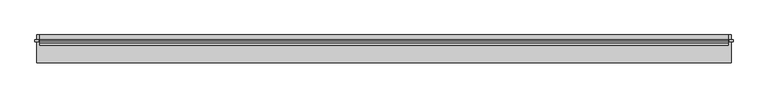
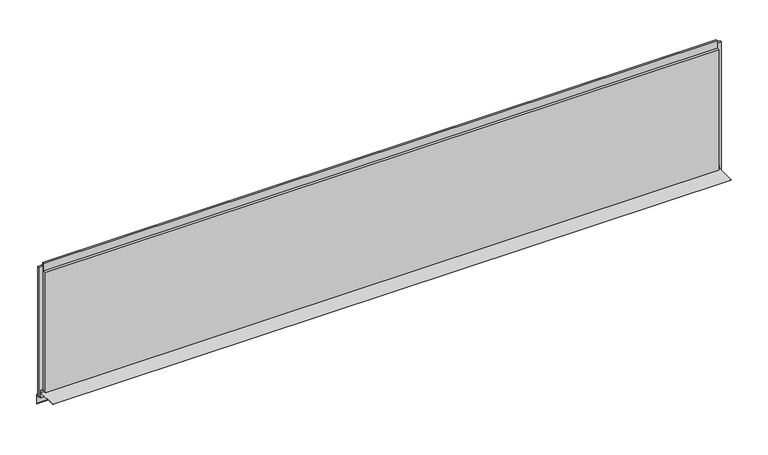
"""IFC4 building model written with IfcOpenShell, lengths in millimetres: plate geometry, Trimo_Qbiss Screen_Normal Panel-HORIZONTAL : HR - B."""

from ifc_helpers import new_model, si_unit, frame, origin, place, context, project, spatial, polyline, outline, extrude, source, transform, mapped, element, save


def plate_c7e8787b(model_context):
    return source(origin(), model_context, "Body", "SweptSolid", [
        extrude(outline(polyline([(66.7, 14.0835797), (67.5, 14.0835797), (67.5, -23.0), (100.0, -25.8433816), (100.0, -76.0), (87.1509533, -63.1509533), (87.7166388, -62.5852679), (99.2, -74.0686292), (99.2, -26.5764465), (66.7, -23.7330649), (66.7, 1.0), (-32.5, 1.0), (-32.5, 1.8), (66.7, 1.8), (66.7, 14.0835797)])), frame((-1650.0, 0.0, 0.0), z_axis=(1.0, 0.0, 0.0), x_axis=(0.0, 1.0, 0.0)), (0.0, 0.0, 1.0), 3300.0),
        extrude(outline(polyline([(-1640.5, 76.5978162), (-1640.5, 67.8978162), (-1659.5, 67.8978162), (-1659.5, 76.5978162), (-1640.5, 76.5978162)])), frame((0.0, 0.0, -20.0), z_axis=(0.0, 0.0, 1.0), x_axis=(1.0, 0.0, 0.0)), (0.0, 0.0, 1.0), 669.0),
        extrude(outline(polyline([(1640.5, 67.8978162), (1640.5, 76.5978162), (1659.5, 76.5978162), (1659.5, 67.8978162), (1640.5, 67.8978162)])), frame((0.0, 0.0, -20.0), z_axis=(0.0, 0.0, 1.0), x_axis=(1.0, 0.0, 0.0)), (0.0, 0.0, 1.0), 669.0),
        extrude(outline(polyline([(1637.5, 76.0), (1637.5, 71.0), (-1637.5, 71.0), (-1637.5, 76.0), (1637.5, 76.0)])), frame((0.0, 0.0, 628.0), z_axis=(0.0, 0.0, 1.0), x_axis=(1.0, 0.0, 0.0)), (0.0, 0.0, 1.0), 21.0),
        extrude(outline(polyline([(71.0, 627.0), (100.0, 627.0), (100.0, 0.0), (72.0, 0.0), (72.0, 15.5), (62.0, 15.5), (62.0, 7.0), (50.0, 7.0), (50.0, 627.0), (63.0, 627.0), (63.0, 664.5), (71.0, 664.5), (71.0, 627.0)])), frame((-1637.5, 0.0, 0.0), z_axis=(1.0, 0.0, 0.0), x_axis=(0.0, 1.0, 0.0)), (0.0, 0.0, 1.0), 3275.0),
    ])


if __name__ == "__main__":
    model = new_model("IFC4")
    model_context = context("Model", 3, world=origin())
    ifc_project = project(units=[si_unit("LENGTHUNIT", "METRE", prefix="MILLI")], contexts=[model_context])
    site = spatial("IfcSite", under=ifc_project)
    building = spatial("IfcBuilding", under=site)
    placement = place(None, origin())
    plate_shape = plate_c7e8787b(model_context)
    element("IfcPlate", 1, ObjectType="Trimo_Qbiss Screen_Normal Panel-HORIZONTAL : HR - B", at=placement, inside=building, context=model_context, shape_type="MappedRepresentation", body=[
        mapped(plate_shape, transform((0.0, 0.0, 0.0), x_axis=(1.0, 0.0, 0.0), y_axis=(0.0, 1.0, 0.0), z_axis=(0.0, 0.0, 1.0))),
    ])
    save(model, "model.ifc")
